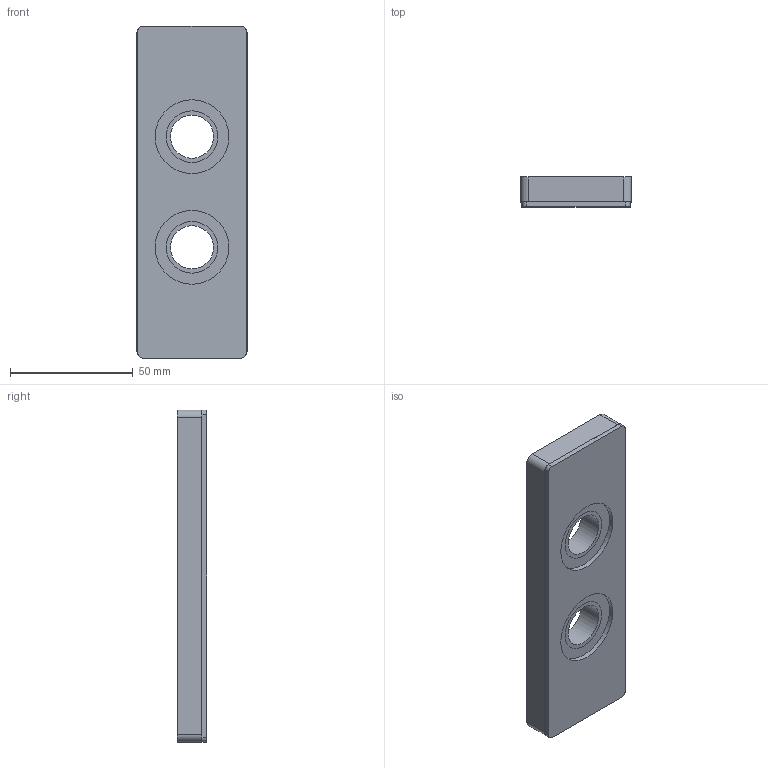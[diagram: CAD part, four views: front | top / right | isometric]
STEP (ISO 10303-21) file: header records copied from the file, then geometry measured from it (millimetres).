
FILE_DESCRIPTION((''),'2;1');
FILE_NAME('TAP045135_ASM','2002-12-27T',('Lipro doo'),('Lipro d.o.o.'),'PRO/ENGINEER BY PARAMETRIC TECHNOLOGY CORPORATION, 2001150','PRO/ENGINEER BY PARAMETRIC TECHNOLOGY CORPORATION, 2001150','');
FILE_SCHEMA(('CONFIG_CONTROL_DESIGN'));
Length unit declared in the file: millimetre
Products named in the file (3): TAP045135_1; TAP045135_2; TAP045135_ASM
Assembly tree (2 placements, depth 2):
  TAP045135_ASM
    TAP045135_1
    TAP045135_2
Bounding box: 45 x 12 x 135 mm (x, y, z)
Volume: 62312.9 mm3; surface area: 27600 mm2
Topology: 2 solids, 4 shells, 44 faces, 114 edges, 74 vertices
Faces by surface type: cylinder 26, plane 12, cone 6
Entity records: 1496 total; most frequent: DIRECTION 274, CARTESIAN_POINT 239, ORIENTED_EDGE 220, EDGE_CURVE 114, AXIS2_PLACEMENT_3D 109, VERTEX_POINT 74, EDGE_LOOP 58, CIRCLE 58
